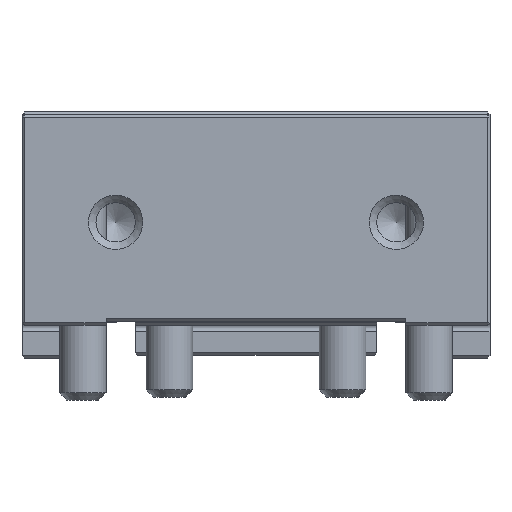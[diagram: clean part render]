
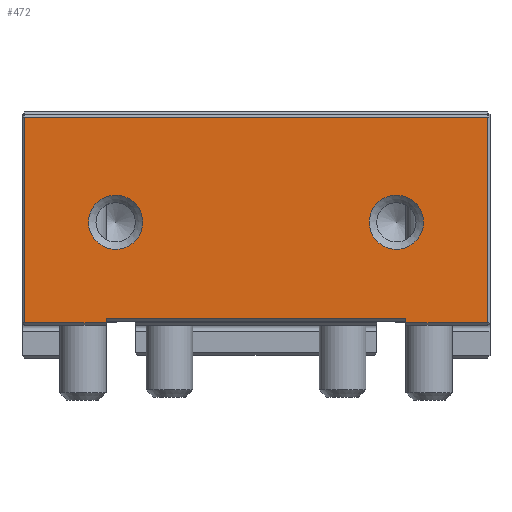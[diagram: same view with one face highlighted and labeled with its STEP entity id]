
A CAD part, front view. The second image highlights one B-rep face of the part: STEP entity #472.
In plain terms, the highlighted planar face has unit normal (0, -1, 0).
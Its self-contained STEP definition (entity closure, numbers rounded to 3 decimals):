
#472=ADVANCED_FACE('',(#3300,#3302,#3304),#3306,.T.);
#3300=FACE_BOUND('',#3301,.T.);
#3301=EDGE_LOOP('',(#5687,#5688,#5689,#5690,#5691,#5692,#5693,#5694));
#3302=FACE_BOUND('',#3303,.T.);
#3303=EDGE_LOOP('',(#5695));
#3304=FACE_BOUND('',#3305,.T.);
#3305=EDGE_LOOP('',(#5696));
#3306=PLANE('',#3307);
#3307=AXIS2_PLACEMENT_3D('',#3308,#3309,#3310);
#3308=CARTESIAN_POINT('',(-50.,-39.,0.));
#3309=DIRECTION('',(0.,-1.,0.));
#3310=DIRECTION('',(1.,0.,0.));
#5687=ORIENTED_EDGE('',*,*,#6780,.F.);
#5688=ORIENTED_EDGE('',*,*,#6791,.F.);
#5689=ORIENTED_EDGE('',*,*,#6792,.T.);
#5690=ORIENTED_EDGE('',*,*,#6716,.T.);
#5691=ORIENTED_EDGE('',*,*,#6710,.T.);
#5692=ORIENTED_EDGE('',*,*,#6700,.T.);
#5693=ORIENTED_EDGE('',*,*,#6785,.T.);
#5694=ORIENTED_EDGE('',*,*,#6793,.T.);
#5695=ORIENTED_EDGE('',*,*,#6754,.T.);
#5696=ORIENTED_EDGE('',*,*,#6794,.T.);
#6700=EDGE_CURVE('',#7339,#7337,#7340,.F.);
#6710=EDGE_CURVE('',#7357,#7339,#7358,.F.);
#6716=EDGE_CURVE('',#7361,#7357,#7368,.F.);
#6754=EDGE_CURVE('',#7436,#7436,#7437,.F.);
#6780=EDGE_CURVE('',#7477,#7475,#7479,.T.);
#6785=EDGE_CURVE('',#7337,#7486,#7488,.F.);
#6791=EDGE_CURVE('',#7497,#7477,#7498,.T.);
#6792=EDGE_CURVE('',#7497,#7361,#7499,.F.);
#6793=EDGE_CURVE('',#7486,#7475,#7500,.T.);
#6794=EDGE_CURVE('',#7501,#7501,#7502,.F.);
#7337=VERTEX_POINT('',#8743);
#7339=VERTEX_POINT('',#8747);
#7340=LINE('',#8748,#8749);
#7357=VERTEX_POINT('',#8806);
#7358=LINE('',#8807,#8808);
#7361=VERTEX_POINT('',#8814);
#7368=LINE('',#8848,#8849);
#7436=VERTEX_POINT('',#9739);
#7437=CIRCLE('',#9740,5.788);
#7475=VERTEX_POINT('',#10059);
#7477=VERTEX_POINT('',#10063);
#7479=LINE('',#10067,#10068);
#7486=VERTEX_POINT('',#10085);
#7488=LINE('',#10089,#10090);
#7497=VERTEX_POINT('',#10112);
#7498=LINE('',#10113,#10114);
#7499=LINE('',#10116,#10117);
#7500=LINE('',#10119,#10120);
#7501=VERTEX_POINT('',#10122);
#7502=CIRCLE('',#10123,5.788);
#8743=CARTESIAN_POINT('',(32.,-39.,7.5));
#8747=CARTESIAN_POINT('',(32.,-39.,8.4));
#8748=CARTESIAN_POINT('',(32.,-39.,7.5));
#8749=VECTOR('',#8750,1.);
#8750=DIRECTION('',(0.,0.,1.));
#8806=CARTESIAN_POINT('',(-32.,-39.,8.4));
#8807=CARTESIAN_POINT('',(32.,-39.,8.4));
#8808=VECTOR('',#8809,1.);
#8809=DIRECTION('',(-1.,0.,0.));
#8814=CARTESIAN_POINT('',(-32.,-39.,7.5));
#8848=CARTESIAN_POINT('',(-32.,-39.,8.4));
#8849=VECTOR('',#8850,1.);
#8850=DIRECTION('',(0.,0.,-1.));
#9739=CARTESIAN_POINT('',(35.788,-39.,29.));
#9740=AXIS2_PLACEMENT_3D('',#9741,#9742,#9743);
#9741=CARTESIAN_POINT('',(30.,-39.,29.));
#9742=DIRECTION('',(0.,-1.,0.));
#9743=DIRECTION('',(1.,0.,0.));
#10059=CARTESIAN_POINT('',(49.5,-39.,51.5));
#10063=CARTESIAN_POINT('',(-49.5,-39.,51.5));
#10067=CARTESIAN_POINT('',(-49.5,-39.,51.5));
#10068=VECTOR('',#10069,1.);
#10069=DIRECTION('',(1.,0.,0.));
#10085=CARTESIAN_POINT('',(49.5,-39.,7.5));
#10089=CARTESIAN_POINT('',(49.5,-39.,7.5));
#10090=VECTOR('',#10091,1.);
#10091=DIRECTION('',(-1.,0.,0.));
#10112=CARTESIAN_POINT('',(-49.5,-39.,7.5));
#10113=CARTESIAN_POINT('',(-49.5,-39.,7.5));
#10114=VECTOR('',#10115,1.);
#10115=DIRECTION('',(0.,0.,1.));
#10116=CARTESIAN_POINT('',(-32.,-39.,7.5));
#10117=VECTOR('',#10118,1.);
#10118=DIRECTION('',(-1.,0.,0.));
#10119=CARTESIAN_POINT('',(49.5,-39.,7.5));
#10120=VECTOR('',#10121,1.);
#10121=DIRECTION('',(0.,0.,1.));
#10122=CARTESIAN_POINT('',(-24.212,-39.,29.));
#10123=AXIS2_PLACEMENT_3D('',#10124,#10125,#10126);
#10124=CARTESIAN_POINT('',(-30.,-39.,29.));
#10125=DIRECTION('',(0.,-1.,0.));
#10126=DIRECTION('',(1.,0.,0.));
